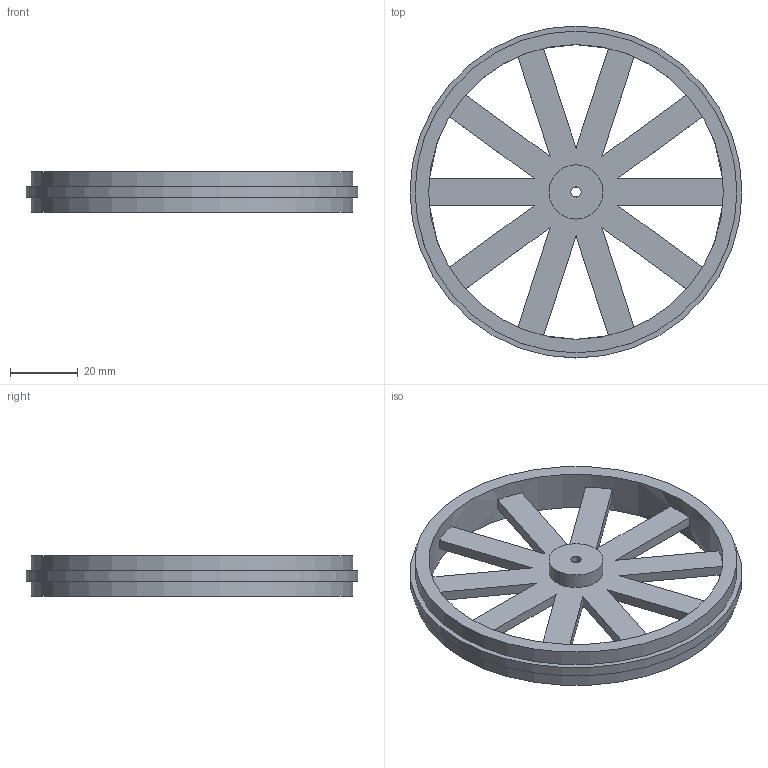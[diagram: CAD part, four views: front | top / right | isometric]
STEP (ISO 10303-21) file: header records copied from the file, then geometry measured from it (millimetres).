
FILE_DESCRIPTION(('Open CASCADE Model'),'2;1');
FILE_NAME('Open CASCADE Shape Model','2026-10-04T21:56:21',('Author'),( 'Open CASCADE'),'Open CASCADE STEP processor 7.9','Open CASCADE 7.9' ,'Unknown');
FILE_SCHEMA(('AUTOMOTIVE_DESIGN { 1 0 10303 214 1 1 1 1 }'));
Length unit declared in the file: millimetre
Products named in the file (1): Open CASCADE STEP translator 7.9 7
Bounding box: 98 x 98 x 12 mm (x, y, z)
Volume: 25759.4 mm3; surface area: 18222.7 mm2
Topology: 1 solids, 1 shells, 35 faces, 114 edges, 76 vertices
Faces by surface type: plane 28, cylinder 7
Full cylindrical faces by diameter (mm): 3 x1, 16 x2, 87 x1, 95 x2, 98 x1
Entity records: 2781 total; most frequent: CARTESIAN_POINT 536, DIRECTION 403, LINE 230, VECTOR 230, ORIENTED_EDGE 228, PCURVE 228, DEFINITIONAL_REPRESENTATION 228, EDGE_CURVE 114
